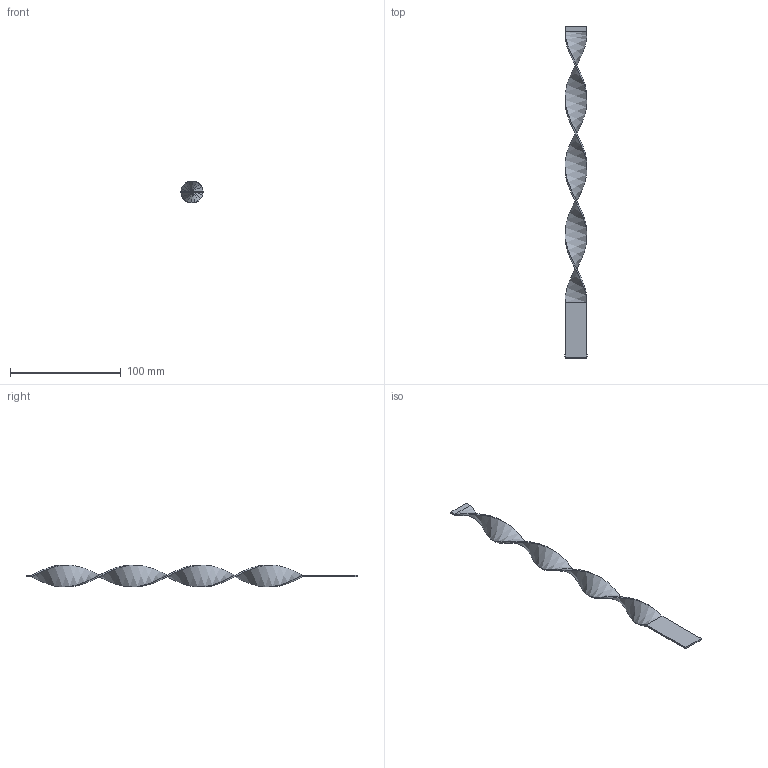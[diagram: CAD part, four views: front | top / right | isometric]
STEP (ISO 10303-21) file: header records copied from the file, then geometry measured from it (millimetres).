
FILE_DESCRIPTION (( 'STEP AP203' ), '1' );
FILE_NAME ('RLAS-20SMx300.STEP', '2015-12-10T14:23:07', ( 'Balzi' ), ( '' ), 'SwSTEP 2.0', 'SolidWorks 2015', '' );
FILE_SCHEMA (( 'CONFIG_CONTROL_DESIGN' ));
Length unit declared in the file: millimetre
Products named in the file (1): RLAS-20SMx300
Bounding box: 20.4 x 300 x 19.8 mm (x, y, z)
Volume: 8912.3 mm3; surface area: 13247.3 mm2
Topology: 1 solids, 1 shells, 22 faces, 52 edges, 32 vertices
Faces by surface type: plane 18, bspline 4
Entity records: 2393 total; most frequent: CARTESIAN_POINT 1839, ORIENTED_EDGE 104, DIRECTION 86, EDGE_CURVE 52, LINE 48, VECTOR 48, VERTEX_POINT 32, FACE_OUTER_BOUND 22
